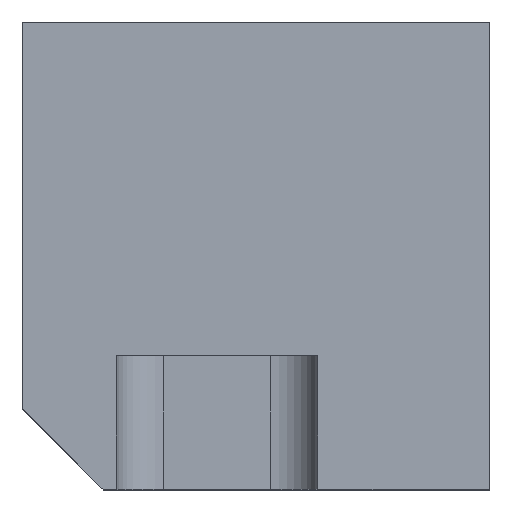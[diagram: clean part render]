
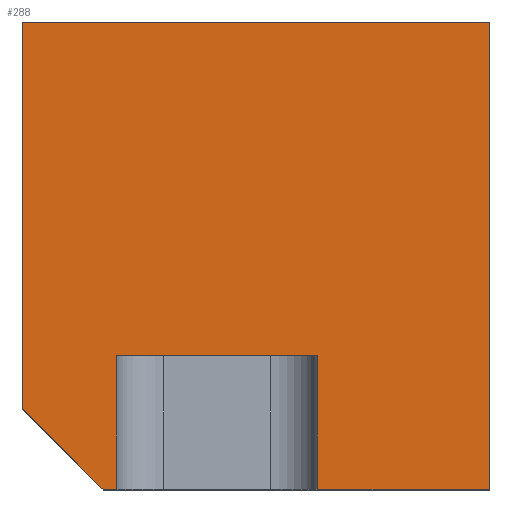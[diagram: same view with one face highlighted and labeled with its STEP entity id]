
A CAD part, top view. The second image highlights one B-rep face of the part: STEP entity #288.
In plain terms, the highlighted planar face has unit normal (0, 0, 1).
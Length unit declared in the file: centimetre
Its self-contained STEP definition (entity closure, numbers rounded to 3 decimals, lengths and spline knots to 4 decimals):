
#10 = EDGE_CURVE ( 'NONE', #157, #79, #618, .T. ) ;
#12 = EDGE_CURVE ( 'NONE', #1122, #1101, #516, .T. ) ;
#31 = VECTOR ( 'NONE', #343, 100. ) ;
#39 = VERTEX_POINT ( 'NONE', #488 ) ;
#41 = LINE ( 'NONE', #1050, #659 ) ;
#47 = LINE ( 'NONE', #406, #992 ) ;
#79 = VERTEX_POINT ( 'NONE', #853 ) ;
#88 = CARTESIAN_POINT ( 'NONE',  ( 200.8295, 0., 1000. ) ) ;
#139 = DIRECTION ( 'NONE',  ( 0., 1., 0. ) ) ;
#145 = DIRECTION ( 'NONE',  ( 0., -1., 0. ) ) ;
#157 = VERTEX_POINT ( 'NONE', #1100 ) ;
#159 = DIRECTION ( 'NONE',  ( 0.707, -0.707, 0. ) ) ;
#195 = EDGE_CURVE ( 'NONE', #39, #348, #1141, .T. ) ;
#209 = VERTEX_POINT ( 'NONE', #409 ) ;
#219 = DIRECTION ( 'NONE',  ( 0., 0., 1. ) ) ;
#228 = ORIENTED_EDGE ( 'NONE', *, *, #663, .T. ) ;
#261 = EDGE_LOOP ( 'NONE', ( #534, #335, #503, #627, #976, #623, #763, #228, #852 ) ) ;
#274 = EDGE_CURVE ( 'NONE', #157, #348, #766, .T. ) ;
#288 = ADVANCED_FACE ( 'NONE', ( #1055 ), #1132, .T. ) ;
#325 = CARTESIAN_POINT ( 'NONE',  ( 200.8295, 285.6709, 1000. ) ) ;
#330 = CARTESIAN_POINT ( 'NONE',  ( 0., 285.6709, 1000. ) ) ;
#332 = CARTESIAN_POINT ( 'NONE',  ( 172.531, 0., 1000. ) ) ;
#335 = ORIENTED_EDGE ( 'NONE', *, *, #195, .T. ) ;
#343 = DIRECTION ( 'NONE',  ( -1., 0., 0. ) ) ;
#348 = VERTEX_POINT ( 'NONE', #536 ) ;
#358 = VECTOR ( 'NONE', #145, 100. ) ;
#406 = CARTESIAN_POINT ( 'NONE',  ( 1000., 1000., 1000. ) ) ;
#409 = CARTESIAN_POINT ( 'NONE',  ( 0., 172.531, 1000. ) ) ;
#416 = VECTOR ( 'NONE', #975, 100. ) ;
#433 = CARTESIAN_POINT ( 'NONE',  ( 1000., 1000., 1000. ) ) ;
#444 = CARTESIAN_POINT ( 'NONE',  ( 0., 1000., 1000. ) ) ;
#469 = AXIS2_PLACEMENT_3D ( 'NONE', #1118, #219, #959 ) ;
#488 = CARTESIAN_POINT ( 'NONE',  ( 200.8295, 285.6709, 1000. ) ) ;
#500 = DIRECTION ( 'NONE',  ( 1., 0., 0. ) ) ;
#503 = ORIENTED_EDGE ( 'NONE', *, *, #274, .F. ) ;
#516 = LINE ( 'NONE', #444, #31 ) ;
#534 = ORIENTED_EDGE ( 'NONE', *, *, #1077, .F. ) ;
#536 = CARTESIAN_POINT ( 'NONE',  ( 632.1109, 285.6709, 1000. ) ) ;
#580 = VECTOR ( 'NONE', #159, 100. ) ;
#585 = VECTOR ( 'NONE', #500, 100. ) ;
#602 = DIRECTION ( 'NONE',  ( 0., 1., 0. ) ) ;
#618 = LINE ( 'NONE', #1146, #817 ) ;
#621 = EDGE_CURVE ( 'NONE', #1152, #664, #41, .T. ) ;
#623 = ORIENTED_EDGE ( 'NONE', *, *, #12, .T. ) ;
#627 = ORIENTED_EDGE ( 'NONE', *, *, #10, .T. ) ;
#659 = VECTOR ( 'NONE', #960, 100. ) ;
#663 = EDGE_CURVE ( 'NONE', #209, #1152, #902, .T. ) ;
#664 = VERTEX_POINT ( 'NONE', #88 ) ;
#707 = CARTESIAN_POINT ( 'NONE',  ( 0., 1000., 1000. ) ) ;
#726 = CARTESIAN_POINT ( 'NONE',  ( 86.2655, 86.2655, 1000. ) ) ;
#763 = ORIENTED_EDGE ( 'NONE', *, *, #1006, .T. ) ;
#766 = LINE ( 'NONE', #880, #987 ) ;
#817 = VECTOR ( 'NONE', #900, 100. ) ;
#852 = ORIENTED_EDGE ( 'NONE', *, *, #621, .T. ) ;
#853 = CARTESIAN_POINT ( 'NONE',  ( 1000., 0., 1000. ) ) ;
#880 = CARTESIAN_POINT ( 'NONE',  ( 632.1109, 285.6709, 1000. ) ) ;
#887 = LINE ( 'NONE', #707, #358 ) ;
#900 = DIRECTION ( 'NONE',  ( 1., 0., 0. ) ) ;
#902 = LINE ( 'NONE', #726, #580 ) ;
#959 = DIRECTION ( 'NONE',  ( 1., 0., 0. ) ) ;
#960 = DIRECTION ( 'NONE',  ( 1., 0., 0. ) ) ;
#975 = DIRECTION ( 'NONE',  ( 0., -1., 0. ) ) ;
#976 = ORIENTED_EDGE ( 'NONE', *, *, #1112, .T. ) ;
#987 = VECTOR ( 'NONE', #139, 100. ) ;
#992 = VECTOR ( 'NONE', #602, 100. ) ;
#1006 = EDGE_CURVE ( 'NONE', #1101, #209, #887, .T. ) ;
#1046 = CARTESIAN_POINT ( 'NONE',  ( 0., 1000., 1000. ) ) ;
#1050 = CARTESIAN_POINT ( 'NONE',  ( 0., 0., 1000. ) ) ;
#1051 = LINE ( 'NONE', #325, #416 ) ;
#1055 = FACE_OUTER_BOUND ( 'NONE', #261, .T. ) ;
#1077 = EDGE_CURVE ( 'NONE', #39, #664, #1051, .T. ) ;
#1100 = CARTESIAN_POINT ( 'NONE',  ( 632.1109, 0., 1000. ) ) ;
#1101 = VERTEX_POINT ( 'NONE', #1046 ) ;
#1112 = EDGE_CURVE ( 'NONE', #79, #1122, #47, .T. ) ;
#1118 = CARTESIAN_POINT ( 'NONE',  ( 0., 0., 1000. ) ) ;
#1122 = VERTEX_POINT ( 'NONE', #433 ) ;
#1132 = PLANE ( 'NONE',  #469 ) ;
#1141 = LINE ( 'NONE', #330, #585 ) ;
#1146 = CARTESIAN_POINT ( 'NONE',  ( 0., 0., 1000. ) ) ;
#1152 = VERTEX_POINT ( 'NONE', #332 ) ;
